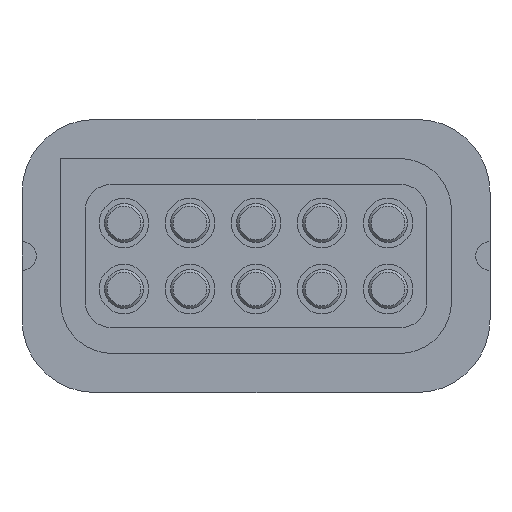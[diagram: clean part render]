
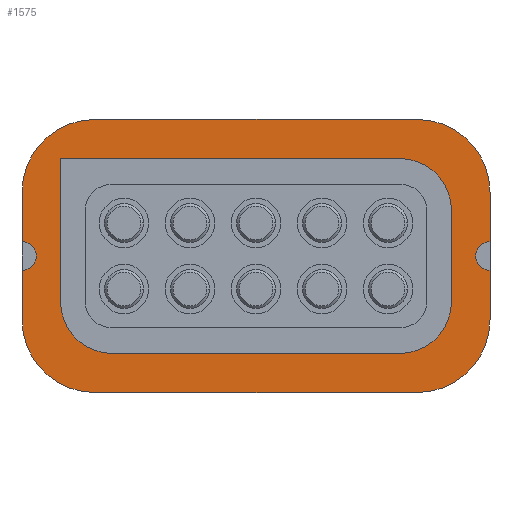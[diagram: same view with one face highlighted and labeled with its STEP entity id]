
A CAD part, front view. The second image highlights one B-rep face of the part: STEP entity #1575.
In plain terms, the highlighted planar face has unit normal (0, -1, 0).
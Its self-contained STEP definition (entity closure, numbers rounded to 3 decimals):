
#488=CARTESIAN_POINT('',(-10.27,2.1,0.));
#489=DIRECTION('',(0.,-1.,0.));
#490=DIRECTION('',(0.,0.,-1.));
#491=AXIS2_PLACEMENT_3D('',#488,#489,#490);
#493=CARTESIAN_POINT('',(-10.27,2.1,0.));
#494=DIRECTION('',(0.,-1.,0.));
#495=DIRECTION('',(1.,0.,0.));
#496=AXIS2_PLACEMENT_3D('',#493,#494,#495);
#498=CARTESIAN_POINT('',(-7.47,2.1,2.45));
#499=DIRECTION('',(0.,1.,0.));
#500=DIRECTION('',(-1.,0.,0.));
#501=AXIS2_PLACEMENT_3D('',#498,#499,#500);
#503=CARTESIAN_POINT('',(4.93,2.1,2.45));
#504=DIRECTION('',(0.,1.,0.));
#505=DIRECTION('',(0.,0.,1.));
#506=AXIS2_PLACEMENT_3D('',#503,#504,#505);
#508=CARTESIAN_POINT('',(7.73,2.1,0.));
#509=DIRECTION('',(0.,-1.,0.));
#510=DIRECTION('',(0.,0.,1.));
#511=AXIS2_PLACEMENT_3D('',#508,#509,#510);
#513=CARTESIAN_POINT('',(7.73,2.1,0.));
#514=DIRECTION('',(0.,-1.,0.));
#515=DIRECTION('',(-1.,0.,0.));
#516=AXIS2_PLACEMENT_3D('',#513,#514,#515);
#518=CARTESIAN_POINT('',(4.93,2.1,-2.45));
#519=DIRECTION('',(0.,1.,0.));
#520=DIRECTION('',(1.,0.,0.));
#521=AXIS2_PLACEMENT_3D('',#518,#519,#520);
#523=CARTESIAN_POINT('',(-7.47,2.1,-2.45));
#524=DIRECTION('',(0.,1.,0.));
#525=DIRECTION('',(0.,0.,-1.));
#526=AXIS2_PLACEMENT_3D('',#523,#524,#525);
#528=DIRECTION('',(-1.,0.,0.));
#529=VECTOR('',#528,13.04);
#530=CARTESIAN_POINT('',(4.25,2.1,3.75));
#531=LINE('',#530,#529);
#532=DIRECTION('',(0.,0.,-1.));
#533=VECTOR('',#532,5.5);
#534=CARTESIAN_POINT('',(-8.79,2.1,3.75));
#535=LINE('',#534,#533);
#536=CARTESIAN_POINT('',(-6.79,2.1,-1.75));
#537=DIRECTION('',(0.,-1.,0.));
#538=DIRECTION('',(-1.,0.,0.));
#539=AXIS2_PLACEMENT_3D('',#536,#537,#538);
#541=DIRECTION('',(1.,0.,0.));
#542=VECTOR('',#541,11.04);
#543=CARTESIAN_POINT('',(-6.79,2.1,-3.75));
#544=LINE('',#543,#542);
#545=CARTESIAN_POINT('',(4.25,2.1,-1.75));
#546=DIRECTION('',(0.,-1.,0.));
#547=DIRECTION('',(0.,0.,-1.));
#548=AXIS2_PLACEMENT_3D('',#545,#546,#547);
#550=DIRECTION('',(0.,0.,1.));
#551=VECTOR('',#550,3.5);
#552=CARTESIAN_POINT('',(6.25,2.1,-1.75));
#553=LINE('',#552,#551);
#554=CARTESIAN_POINT('',(4.25,2.1,1.75));
#555=DIRECTION('',(0.,-1.,0.));
#556=DIRECTION('',(1.,0.,0.));
#557=AXIS2_PLACEMENT_3D('',#554,#555,#556);
#571=DIRECTION('',(0.,0.,-1.));
#572=VECTOR('',#571,1.9);
#573=CARTESIAN_POINT('',(-10.27,2.1,-0.55));
#574=LINE('',#573,#572);
#575=DIRECTION('',(0.,0.,-1.));
#576=VECTOR('',#575,1.9);
#577=CARTESIAN_POINT('',(-10.27,2.1,2.45));
#578=LINE('',#577,#576);
#597=DIRECTION('',(-1.,0.,0.));
#598=VECTOR('',#597,12.4);
#599=CARTESIAN_POINT('',(4.93,2.1,5.25));
#600=LINE('',#599,#598);
#609=DIRECTION('',(0.,0.,1.));
#610=VECTOR('',#609,1.9);
#611=CARTESIAN_POINT('',(7.73,2.1,0.55));
#612=LINE('',#611,#610);
#613=DIRECTION('',(0.,0.,1.));
#614=VECTOR('',#613,1.9);
#615=CARTESIAN_POINT('',(7.73,2.1,-2.45));
#616=LINE('',#615,#614);
#647=DIRECTION('',(1.,0.,0.));
#648=VECTOR('',#647,12.4);
#649=CARTESIAN_POINT('',(-7.47,2.1,-5.25));
#650=LINE('',#649,#648);
#667=CARTESIAN_POINT('',(-7.47,2.1,-5.25));
#668=CARTESIAN_POINT('',(-10.27,2.1,-2.45));
#669=VERTEX_POINT('',#667);
#670=VERTEX_POINT('',#668);
#671=CARTESIAN_POINT('',(-9.72,2.1,0.));
#672=CARTESIAN_POINT('',(-10.27,2.1,0.55));
#673=VERTEX_POINT('',#671);
#674=VERTEX_POINT('',#672);
#675=CARTESIAN_POINT('',(-10.27,2.1,-0.55));
#676=VERTEX_POINT('',#675);
#677=CARTESIAN_POINT('',(-10.27,2.1,2.45));
#678=VERTEX_POINT('',#677);
#679=CARTESIAN_POINT('',(-7.47,2.1,5.25));
#680=VERTEX_POINT('',#679);
#681=CARTESIAN_POINT('',(4.93,2.1,5.25));
#682=VERTEX_POINT('',#681);
#683=CARTESIAN_POINT('',(7.73,2.1,2.45));
#684=VERTEX_POINT('',#683);
#685=CARTESIAN_POINT('',(7.73,2.1,0.55));
#686=VERTEX_POINT('',#685);
#687=CARTESIAN_POINT('',(7.18,2.1,0.));
#688=CARTESIAN_POINT('',(7.73,2.1,-0.55));
#689=VERTEX_POINT('',#687);
#690=VERTEX_POINT('',#688);
#691=CARTESIAN_POINT('',(7.73,2.1,-2.45));
#692=VERTEX_POINT('',#691);
#693=CARTESIAN_POINT('',(4.93,2.1,-5.25));
#694=VERTEX_POINT('',#693);
#695=CARTESIAN_POINT('',(4.25,2.1,3.75));
#696=CARTESIAN_POINT('',(-8.79,2.1,3.75));
#697=VERTEX_POINT('',#695);
#698=VERTEX_POINT('',#696);
#699=CARTESIAN_POINT('',(-8.79,2.1,-1.75));
#700=VERTEX_POINT('',#699);
#701=CARTESIAN_POINT('',(-6.79,2.1,-3.75));
#702=VERTEX_POINT('',#701);
#703=CARTESIAN_POINT('',(4.25,2.1,-3.75));
#704=VERTEX_POINT('',#703);
#705=CARTESIAN_POINT('',(6.25,2.1,-1.75));
#706=VERTEX_POINT('',#705);
#707=CARTESIAN_POINT('',(6.25,2.1,1.75));
#708=VERTEX_POINT('',#707);
#1532=CARTESIAN_POINT('',(0.,2.1,0.));
#1533=DIRECTION('',(0.,1.,0.));
#1534=DIRECTION('',(1.,0.,0.));
#1535=AXIS2_PLACEMENT_3D('',#1532,#1533,#1534);
#1536=PLANE('',#1535);
#1538=ORIENTED_EDGE('',*,*,#1537,.T.);
#1540=ORIENTED_EDGE('',*,*,#1539,.T.);
#1542=ORIENTED_EDGE('',*,*,#1541,.F.);
#1544=ORIENTED_EDGE('',*,*,#1543,.T.);
#1546=ORIENTED_EDGE('',*,*,#1545,.F.);
#1548=ORIENTED_EDGE('',*,*,#1547,.T.);
#1550=ORIENTED_EDGE('',*,*,#1549,.F.);
#1552=ORIENTED_EDGE('',*,*,#1551,.T.);
#1554=ORIENTED_EDGE('',*,*,#1553,.T.);
#1556=ORIENTED_EDGE('',*,*,#1555,.F.);
#1558=ORIENTED_EDGE('',*,*,#1557,.T.);
#1560=ORIENTED_EDGE('',*,*,#1559,.F.);
#1561=ORIENTED_EDGE('',*,*,#1522,.T.);
#1563=ORIENTED_EDGE('',*,*,#1562,.F.);
#1564=EDGE_LOOP('',(#1538,#1540,#1542,#1544,#1546,#1548,#1550,#1552,#1554,#1556,
#1558,#1560,#1561,#1563));
#1565=FACE_OUTER_BOUND('',#1564,.F.);
#1566=ORIENTED_EDGE('',*,*,#873,.T.);
#1567=ORIENTED_EDGE('',*,*,#858,.T.);
#1568=ORIENTED_EDGE('',*,*,#947,.T.);
#1569=ORIENTED_EDGE('',*,*,#933,.T.);
#1570=ORIENTED_EDGE('',*,*,#918,.T.);
#1571=ORIENTED_EDGE('',*,*,#903,.T.);
#1572=ORIENTED_EDGE('',*,*,#888,.T.);
#1573=EDGE_LOOP('',(#1566,#1567,#1568,#1569,#1570,#1571,#1572));
#1574=FACE_BOUND('',#1573,.F.);
#492=CIRCLE('',#491,0.55);
#497=CIRCLE('',#496,0.55);
#502=CIRCLE('',#501,2.8);
#507=CIRCLE('',#506,2.8);
#512=CIRCLE('',#511,0.55);
#517=CIRCLE('',#516,0.55);
#522=CIRCLE('',#521,2.8);
#527=CIRCLE('',#526,2.8);
#540=CIRCLE('',#539,2.);
#549=CIRCLE('',#548,2.);
#558=CIRCLE('',#557,2.);
#858=EDGE_CURVE('',#698,#700,#535,.T.);
#873=EDGE_CURVE('',#697,#698,#531,.T.);
#888=EDGE_CURVE('',#708,#697,#558,.T.);
#903=EDGE_CURVE('',#706,#708,#553,.T.);
#918=EDGE_CURVE('',#704,#706,#549,.T.);
#933=EDGE_CURVE('',#702,#704,#544,.T.);
#947=EDGE_CURVE('',#700,#702,#540,.T.);
#1522=EDGE_CURVE('',#669,#670,#527,.T.);
#1537=EDGE_CURVE('',#676,#673,#492,.T.);
#1539=EDGE_CURVE('',#673,#674,#497,.T.);
#1541=EDGE_CURVE('',#678,#674,#578,.T.);
#1543=EDGE_CURVE('',#678,#680,#502,.T.);
#1545=EDGE_CURVE('',#682,#680,#600,.T.);
#1547=EDGE_CURVE('',#682,#684,#507,.T.);
#1549=EDGE_CURVE('',#686,#684,#612,.T.);
#1551=EDGE_CURVE('',#686,#689,#512,.T.);
#1553=EDGE_CURVE('',#689,#690,#517,.T.);
#1555=EDGE_CURVE('',#692,#690,#616,.T.);
#1557=EDGE_CURVE('',#692,#694,#522,.T.);
#1559=EDGE_CURVE('',#669,#694,#650,.T.);
#1562=EDGE_CURVE('',#676,#670,#574,.T.);
#1575=ADVANCED_FACE('',(#1565,#1574),#1536,.F.);
